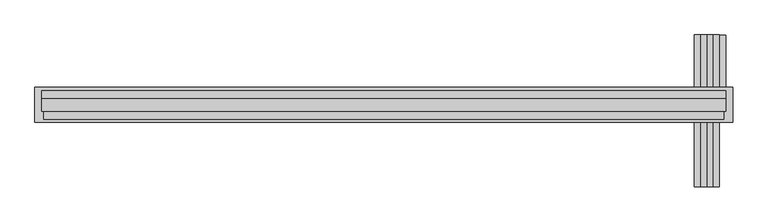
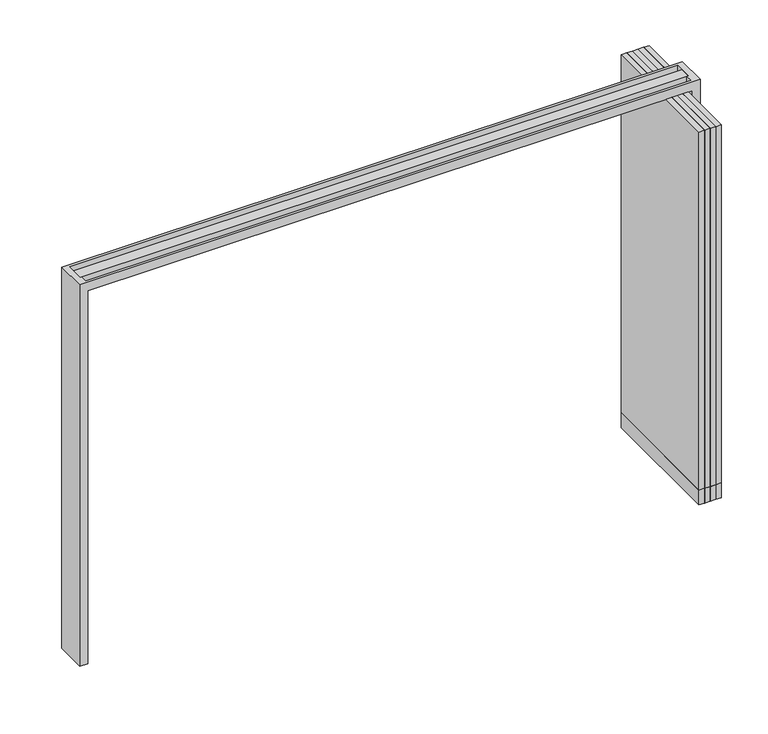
"""IFC4 building model written with IfcOpenShell, lengths in millimetres: furniture geometry, C16 Puerta plegadiza 4.5hojas : C16 Puerta plegadiza 4.5hojas."""

from ifc_helpers import new_model, si_unit, frame, origin, origin_with_axes, place, context, project, spatial, polyline, outline, extrude, faceted_brep, source, transform, mapped, element, save


def furniture_d2b343ed(model_context):
    return source(origin(), model_context, "Body", "SolidModel", [
        extrude(outline(polyline([(1824.7003264, 301.0555556), (1859.7003264, 301.0555556), (1859.7003264, -569.0555556), (1824.7003264, -569.0555556), (1824.7003264, 301.0555556)])), origin_with_axes(), (0.0, 0.0, 1.0), 100.0),
        extrude(outline(polyline([(1824.7003264, 301.0555556), (1859.7003264, 301.0555556), (1859.7003264, -569.0555556), (1824.7003264, -569.0555556), (1824.7003264, 301.0555556)])), frame((0.0, 0.0, 100.0), z_axis=(0.0, 0.0, 1.0), x_axis=(1.0, 0.0, 0.0)), (0.0, 0.0, 1.0), 2442.0),
        extrude(outline(polyline([(1860.7003264, 301.0555556), (1895.7003264, 301.0555556), (1895.7003264, -569.0555556), (1860.7003264, -569.0555556), (1860.7003264, 301.0555556)])), origin_with_axes(), (0.0, 0.0, 1.0), 100.0),
        extrude(outline(polyline([(1860.7003264, 301.0555556), (1895.7003264, 301.0555556), (1895.7003264, -569.0555556), (1860.7003264, -569.0555556), (1860.7003264, 301.0555556)])), frame((0.0, 0.0, 100.0), z_axis=(0.0, 0.0, 1.0), x_axis=(1.0, 0.0, 0.0)), (0.0, 0.0, 1.0), 2442.0),
        extrude(outline(polyline([(1896.7003264, 301.0555556), (1931.7003264, 301.0555556), (1931.7003264, -569.0555556), (1896.7003264, -569.0555556), (1896.7003264, 301.0555556)])), origin_with_axes(), (0.0, 0.0, 1.0), 100.0),
        extrude(outline(polyline([(1896.7003264, 301.0555556), (1931.7003264, 301.0555556), (1931.7003264, -569.0555556), (1896.7003264, -569.0555556), (1896.7003264, 301.0555556)])), frame((0.0, 0.0, 100.0), z_axis=(0.0, 0.0, 1.0), x_axis=(1.0, 0.0, 0.0)), (0.0, 0.0, 1.0), 2442.0),
        extrude(outline(polyline([(1932.7003264, 301.0555556), (1967.7003264, 301.0555556), (1967.7003264, -569.0555556), (1932.7003264, -569.0555556), (1932.7003264, 301.0555556)])), origin_with_axes(), (0.0, 0.0, 1.0), 100.0),
        extrude(outline(polyline([(1932.7003264, 301.0555556), (1967.7003264, 301.0555556), (1967.7003264, -569.0555556), (1932.7003264, -569.0555556), (1932.7003264, 301.0555556)])), frame((0.0, 0.0, 100.0), z_axis=(0.0, 0.0, 1.0), x_axis=(1.0, 0.0, 0.0)), (0.0, 0.0, 1.0), 2442.0),
        extrude(outline(polyline([(2004.7003264, -134.0), (1969.7003264, -134.0), (1969.7003264, 299.5555556), (2004.7003264, 299.5555556), (2004.7003264, -134.0)])), origin_with_axes(), (0.0, 0.0, 1.0), 100.0),
        extrude(outline(polyline([(2004.7003264, -134.0), (1969.7003264, -134.0), (1969.7003264, 299.5555556), (2004.7003264, 299.5555556), (2004.7003264, -134.0)])), frame((0.0, 0.0, 100.0), z_axis=(0.0, 0.0, 1.0), x_axis=(1.0, 0.0, 0.0)), (0.0, 0.0, 1.0), 2442.0),
        extrude(outline(polyline([(-65.0, 2542.0), (-95.0, 2542.0), (-95.0, 2552.0), (-75.0, 2552.0), (-75.0, 2590.0), (-125.0, 2590.0), (-125.0, 2552.0), (-105.0, 2552.0), (-105.0, 2542.0), (-135.0, 2542.0), (-135.0, 2600.0), (-65.0, 2600.0), (-65.0, 2542.0)])), frame((-1915.2996736, 0.0, 0.0), z_axis=(1.0, 0.0, 0.0), x_axis=(0.0, 1.0, 0.0)), (0.0, 0.0, 1.0), 3920.0),
        faceted_brep([(-1955.2996736, -200.0, 0.0), (-1955.2996736, 0.0, 0.0), (-1915.2996736, 0.0, 0.0), (-1915.2996736, -135.0, 0.0), (-1905.2996736, -135.0, 0.0), (-1905.2996736, -200.0, 0.0), (-1955.2996736, -200.0, 2600.0), (-1955.2996736, 0.0, 2600.0), (2044.7003264, 0.0, 2600.0), (2044.7003264, 0.0, 0.0), (2004.7003264, 0.0, 0.0), (2004.7003264, 0.0, 2542.0), (-1915.2996736, 0.0, 2542.0), (-1915.2996736, -65.0, 2542.0), (-1915.2996736, -65.0, 2560.0), (-1915.2996736, -18.0, 2560.0), (-1915.2996736, -18.0, 2600.0), (-1915.2996736, -135.0, 2600.0), (-1905.2996736, -135.0, 2600.0), (-1905.2996736, -135.0, 2560.0), (1994.7003264, -135.0, 2560.0), (1994.7003264, -135.0, 2600.0), (2004.7003264, -135.0, 2600.0), (2004.7003264, -135.0, 0.0), (1994.7003264, -135.0, 0.0), (1994.7003264, -135.0, 2542.0), (-1905.2996736, -135.0, 2542.0), (-1905.2996736, -200.0, 2542.0), (-1905.2996736, -182.0, 2600.0), (-1905.2996736, -182.0, 2560.0), (1994.7003264, -200.0, 2542.0), (1994.7003264, -200.0, 0.0), (2044.7003264, -200.0, 0.0), (2044.7003264, -200.0, 2600.0), (2004.7003264, -18.0, 2600.0), (2004.7003264, -18.0, 2560.0), (2004.7003264, -65.0, 2560.0), (2004.7003264, -65.0, 2542.0), (1994.7003264, -182.0, 2600.0), (1994.7003264, -182.0, 2560.0)], [[[0, 1, 2, 3, 4, 5]], [[6, 7, 1, 0]], [[2, 1, 7, 8, 9, 10, 11, 12]], [[3, 2, 12, 13, 14, 15, 16, 17]], [[17, 18, 19, 20, 21, 22, 23, 24, 25, 26, 4, 3]], [[5, 4, 26, 27]], [[18, 28, 29, 19]], [[0, 5, 27, 30, 31, 32, 33, 6]], [[8, 33, 32, 9]], [[32, 31, 24, 23, 10, 9]], [[10, 23, 22, 34, 35, 36, 37, 11]], [[24, 31, 30, 25]], [[38, 21, 20, 39]], [[33, 8, 7, 6], [18, 17, 16, 34, 22, 21, 38, 28]], [[34, 16, 15, 35]], [[29, 28, 38, 39]], [[12, 11, 37, 13]], [[36, 14, 13, 37]], [[35, 15, 14, 36]], [[19, 29, 39, 20]], [[27, 26, 25, 30]]]),
    ])


if __name__ == "__main__":
    model = new_model("IFC4")
    model_context = context("Model", 3, world=origin())
    ifc_project = project(units=[si_unit("LENGTHUNIT", "METRE", prefix="MILLI")], contexts=[model_context])
    site = spatial("IfcSite", under=ifc_project)
    building = spatial("IfcBuilding", under=site)
    placement = place(None, origin())
    furniture_shape = furniture_d2b343ed(model_context)
    element("IfcFurniture", 1, ObjectType="C16 Puerta plegadiza 4.5hojas : C16 Puerta plegadiza 4.5hojas", at=placement, inside=building, context=model_context, shape_type="MappedRepresentation", body=[
        mapped(furniture_shape, transform((0.0, 0.0, 0.0), x_axis=(1.0, 0.0, 0.0), y_axis=(0.0, 1.0, 0.0), z_axis=(0.0, 0.0, 1.0))),
    ])
    save(model, "model.ifc")
